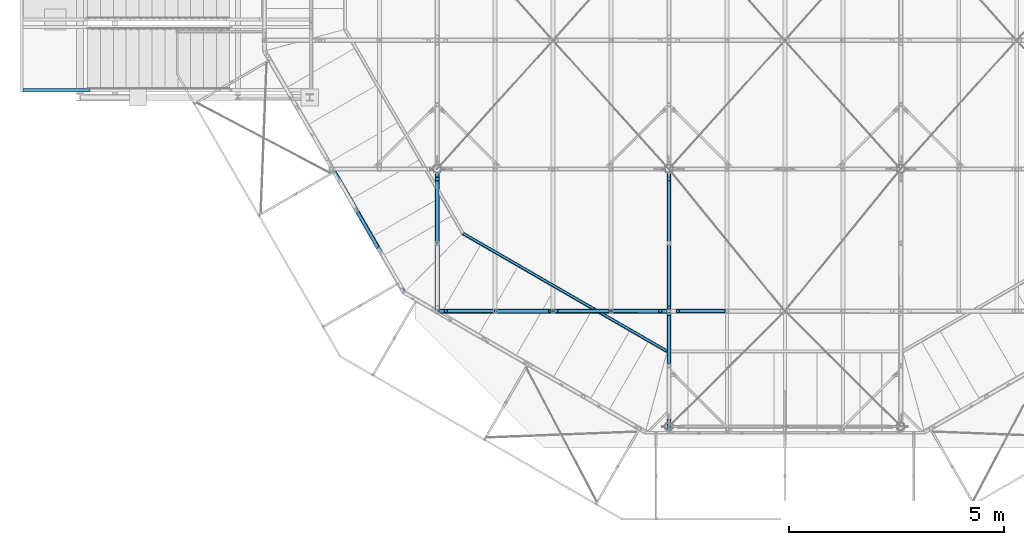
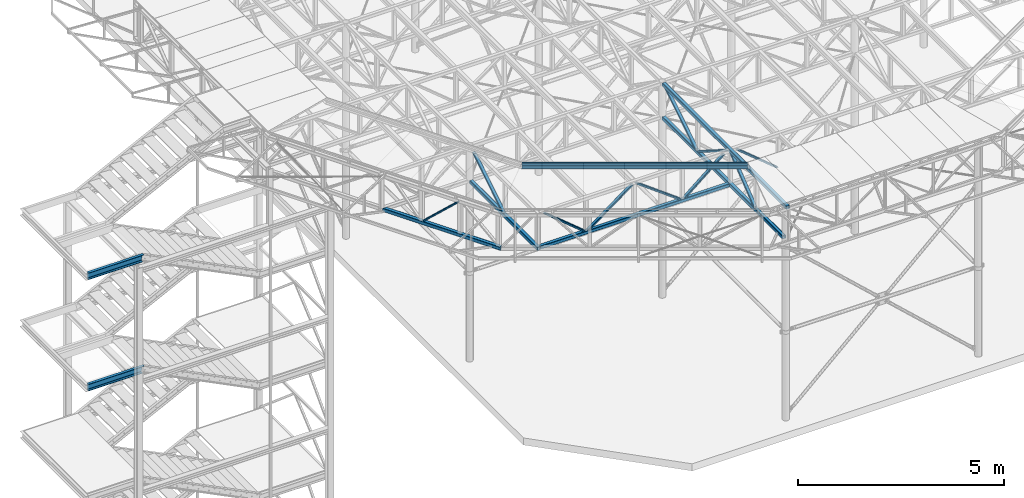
# One storey, part 35 of 132: 19 discrete accessories, 9 elements without a shape of their own.
"""IFC2X3 building model written with IfcOpenShell, lengths in millimetres."""

from ifc_helpers import new_model, si_unit, frame, origin_with_axes, origin_2d_with_axis, place, context, subcontext, project, spatial, rounded_rectangle, hollow_rectangle, circle, l_section, u_section, extrude, boolean, clip, halfspace, material, type_object, element, aggregate, save


model = new_model("IFC2X3")

# Units and contexts
model_context = context("Model", 3, precision=1e-05, world=origin_with_axes())
body_context = subcontext(model_context, "Body", "Model", "MODEL_VIEW")
ifc_project = project(units=[si_unit("LENGTHUNIT", "METRE", prefix="MILLI"), si_unit("AREAUNIT", "SQUARE_METRE"), si_unit("VOLUMEUNIT", "CUBIC_METRE"), si_unit("MASSUNIT", "GRAM", prefix="KILO"), si_unit("TIMEUNIT", "SECOND"), si_unit("PLANEANGLEUNIT", "RADIAN"), si_unit("SOLIDANGLEUNIT", "STERADIAN"), si_unit("THERMODYNAMICTEMPERATUREUNIT", "DEGREE_CELSIUS"), si_unit("LUMINOUSINTENSITYUNIT", "LUMEN")], contexts=[model_context])

# Site, building, storey
site_placement = place(None, origin_with_axes())
site = spatial("IfcSite", under=ifc_project, at=site_placement, Name="Budowa", CompositionType="ELEMENT")
building_placement = place(site_placement, origin_with_axes())
building = spatial("IfcBuilding", under=site, at=building_placement, Name="Undefined", CompositionType="ELEMENT")
storey_placement = place(building_placement, origin_with_axes())
storey = spatial("IfcBuildingStorey", under=building, at=storey_placement, Name="Undefined", CompositionType="ELEMENT", Elevation=0.0)

# Assembly, discrete accessory
assembly_1_placement = place(storey_placement, origin_with_axes())
assembly_1 = element("IfcElementAssembly", 1, at=assembly_1_placement, inside=storey, Name="Steel Assembly", AssemblyPlace="NOTDEFINED", PredefinedType="RIGID_FRAME")
ifc_material = material(Name="STEEL/S235")
discrete_accessory_type_1 = type_object("IfcDiscreteAccessoryType", Name="BEAM")
discrete_accessory_1_placement = place(assembly_1_placement, frame((4632.40452087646, 4498.25460994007, 13965.0), z_axis=(-0.500000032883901, -0.866025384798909, 0.0), x_axis=(0.866025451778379, -0.499999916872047, 0.0)))
discrete_accessory_1 = element("IfcDiscreteAccessory", 2, at=discrete_accessory_1_placement, type_object=discrete_accessory_type_1, material=ifc_material, Name="BEAM", ObjectType="L50*6", context=body_context, shape_type="Clipping", body=[
    clip(clip(extrude(l_section(Depth=50.0, Width=50.0, Thickness=6.0, FilletRadius=7.0, EdgeRadius=3.5, at=origin_2d_with_axis()), frame((5526.2433656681, -1.81898940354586e-12, -9.09494701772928e-13), z_axis=(-1.0, 0.0, 0.0), x_axis=(0.0, -1.0, 0.0)), (0.0, 0.0, 1.0), 5576.68), halfspace(frame((5475.81035694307, -1.81898940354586e-12, -25.0000000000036), z_axis=(-0.965925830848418, 0.0, 0.258819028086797), x_axis=(0.0, 1.0, 0.0)), True)), halfspace(frame((3.51101334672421e-08, 0.0, -24.9999999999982), z_axis=(-0.965925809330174, 0.0, -0.258819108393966), x_axis=(0.0, 1.0, 0.0)), False)),
])
aggregate(assembly_1, [discrete_accessory_1])

assembly_2_placement = place(storey_placement, origin_with_axes())
assembly_2 = element("IfcElementAssembly", 3, at=assembly_2_placement, inside=storey, Name="Steel Assembly", AssemblyPlace="NOTDEFINED", PredefinedType="RIGID_FRAME")
discrete_accessory_2_placement = place(assembly_2_placement, frame((4632.74297509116, 4494.01775168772, 13955.0), z_axis=(0.0, 0.0, 1.0), x_axis=(0.866025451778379, -0.499999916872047, 0.0)))
discrete_accessory_2 = element("IfcDiscreteAccessory", 4, at=discrete_accessory_2_placement, type_object=discrete_accessory_type_1, material=ifc_material, Name="BEAM", ObjectType="L150*75*9", context=body_context, shape_type="Clipping", body=[
    clip(clip(extrude(l_section(Depth=150.0, Width=75.0, Thickness=9.0, FilletRadius=10.5, EdgeRadius=5.5, at=origin_2d_with_axis()), frame((5546.63678901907, -3.07900193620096e-13, 0.0), z_axis=(-1.0, 0.0, 0.0), x_axis=(0.0, -1.0, 0.0)), (0.0, 0.0, 1.0), 5622.29), halfspace(frame((5470.98727593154, 37.5000000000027, 0.0), z_axis=(-0.965925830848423, -0.258819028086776, 0.0), x_axis=(0.0, 0.0, 1.0)), True)), halfspace(frame((1.9117578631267e-08, 37.5000000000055, -1.81898940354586e-12), z_axis=(-0.965925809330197, 0.258819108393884, 0.0), x_axis=(0.0, 0.0, 1.0)), False)),
])
aggregate(assembly_2, [discrete_accessory_2])

# Assembly, discrete accessories
assembly_3_placement = place(storey_placement, origin_with_axes())
assembly_3 = element("IfcElementAssembly", 5, at=assembly_3_placement, inside=storey, Name="Steel Assembly", AssemblyPlace="NOTDEFINED", PredefinedType="RIGID_FRAME")
discrete_accessory_3_placement = place(assembly_3_placement, frame((2677.183368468, 4114.06140515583, 13830.0000000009), z_axis=(-0.866025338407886, -0.500000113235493, 0.0), x_axis=(-0.366880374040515, 0.635455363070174, -0.679408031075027)))
solid_1 = boolean("DIFFERENCE", boolean("DIFFERENCE", extrude(rounded_rectangle(XDim=100.0, YDim=100.0, RoundingRadius=8.0, at=origin_2d_with_axis()), frame((33.9704017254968, 36.6880335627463, 1.12347189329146e-08), z_axis=(0.679408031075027, 0.733760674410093, 2.95361735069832e-10), x_axis=(-0.733760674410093, 0.679408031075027, -3.18989779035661e-10)), (0.0, 0.0, 1.0), 900.0), halfspace(frame((33.9704012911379, 36.6880335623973, 1000.0000000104), z_axis=(0.679408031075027, 0.733760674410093, 2.95361735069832e-10), x_axis=(-0.733760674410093, 0.679408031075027, -3.18989779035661e-10)), True)), halfspace(frame((645.437629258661, 697.072640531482, 1000.00000027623), z_axis=(-0.679408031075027, -0.733760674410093, -2.95362433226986e-10), x_axis=(0.733760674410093, -0.679408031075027, 3.18989805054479e-10)), True))
solid_2 = boolean("DIFFERENCE", boolean("DIFFERENCE", extrude(rounded_rectangle(XDim=100.0, YDim=100.0, RoundingRadius=8.0, at=origin_2d_with_axis()), frame((826.431930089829, -697.072639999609, 3.55705837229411e-07), z_axis=(0.679408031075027, 0.733760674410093, 2.95361735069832e-10), x_axis=(-0.733760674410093, 0.679408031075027, -3.18989779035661e-10)), (0.0, 0.0, 1.0), 900.0), halfspace(frame((826.431929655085, -697.0726399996, 1000.00000035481), z_axis=(0.679408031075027, 0.733760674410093, 2.95361735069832e-10), x_axis=(-0.733760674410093, 0.679408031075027, -3.18989779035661e-10)), True)), halfspace(frame((1437.89915762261, -36.6880330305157, 1000.00000062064), z_axis=(-0.679408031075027, -0.733760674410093, -2.95362433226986e-10), x_axis=(0.733760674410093, -0.679408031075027, 3.18989805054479e-10)), True))
discrete_accessory_3 = element("IfcDiscreteAccessory", 6, at=discrete_accessory_3_placement, type_object=discrete_accessory_type_1, material=ifc_material, Name="BEAM", ObjectType="RHS80*40*4", context=body_context, shape_type="CSG", body=[
    boolean("DIFFERENCE", boolean("DIFFERENCE", boolean("DIFFERENCE", boolean("DIFFERENCE", extrude(hollow_rectangle(XDim=40.0, YDim=80.0, WallThickness=4.0, InnerFilletRadius=4.0, OuterFilletRadius=8.0, at=origin_2d_with_axis()), frame((1455.54966626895, 0.0, -1.67210073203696e-14), z_axis=(-1.0, 0.0, 0.0), x_axis=(0.0, -1.0, 0.0)), (0.0, 0.0, 1.0), 1439.23), solid_1), solid_2), halfspace(frame((1437.89915762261, -36.6880330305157, 1000.00000062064), z_axis=(-0.679408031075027, -0.733760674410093, -2.95362433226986e-10), x_axis=(0.733760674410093, -0.679408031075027, 3.18989805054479e-10)), True)), halfspace(frame((33.9704012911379, 36.6880335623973, 1000.0000000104), z_axis=(0.679408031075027, 0.733760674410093, 2.95361735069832e-10), x_axis=(-0.733760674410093, 0.679408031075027, -3.18989779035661e-10)), True)),
])
discrete_accessory_4_placement = place(assembly_3_placement, frame((3255.58181669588, 3112.2460413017, 12830.0), z_axis=(0.0, 0.0, 1.0), x_axis=(-0.500000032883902, 0.866025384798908, 0.0)))
discrete_accessory_4 = element("IfcDiscreteAccessory", 7, at=discrete_accessory_4_placement, type_object=discrete_accessory_type_1, material=ifc_material, Name="BEAM", ObjectType="SHS100*5", context=body_context, shape_type="Clipping", body=[
    clip(clip(extrude(hollow_rectangle(XDim=100.0, YDim=100.0, WallThickness=5.0, InnerFilletRadius=5.0, OuterFilletRadius=10.0, at=origin_2d_with_axis()), frame((3363.31663048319, 1.86701578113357e-13, 0.0), z_axis=(-1.0, 0.0, 0.0), x_axis=(0.0, -1.0, 0.0)), (0.0, 0.0, 1.0), 3429.57), halfspace(frame((3247.84656727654, -49.9999999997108, -50.0), z_axis=(0.866025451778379, -0.499999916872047, 0.0), x_axis=(0.0, 0.0, 1.0)), False)), halfspace(frame((26.7967793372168, -49.9999999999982, 0.0), z_axis=(0.965921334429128, 0.258835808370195, 0.0), x_axis=(0.0, 0.0, 1.0)), True)),
])
aggregate(assembly_3, [discrete_accessory_3, discrete_accessory_4])

assembly_4_placement = place(storey_placement, origin_with_axes())
assembly_4 = element("IfcElementAssembly", 8, at=assembly_4_placement, inside=storey, Name="Steel Assembly", AssemblyPlace="NOTDEFINED", PredefinedType="RIGID_FRAME")
discrete_accessory_5_placement = place(assembly_4_placement, frame((9283.99999993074, 2690.0000000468, 13830.0), z_axis=(0.0, -1.0, 0.0), x_axis=(-0.770567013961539, 0.0, -0.637358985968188)))
solid_3 = boolean("DIFFERENCE", boolean("DIFFERENCE", extrude(hollow_rectangle(XDim=90.0, YDim=90.0, WallThickness=6.0, InnerFilletRadius=6.0, OuterFilletRadius=12.0, at=origin_2d_with_axis()), frame((1537.1065565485, -38.5283507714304, -6.22094376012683e-10), z_axis=(-0.637358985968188, -0.770567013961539, 0.0), x_axis=(0.770567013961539, -0.637358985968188, 0.0)), (0.0, 0.0, 1.0), 900.0), halfspace(frame((1537.1065565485, -38.5283507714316, 999.999999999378), z_axis=(-0.637358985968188, -0.770567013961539, 0.0), x_axis=(0.770567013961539, -0.637358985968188, 0.0)), True)), halfspace(frame((963.483469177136, -732.038663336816, 999.999999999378), z_axis=(0.637358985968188, 0.770567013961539, 0.0), x_axis=(-0.770567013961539, 0.637358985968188, 0.0)), True))
discrete_accessory_5 = element("IfcDiscreteAccessory", 9, at=discrete_accessory_5_placement, type_object=discrete_accessory_type_1, material=ifc_material, Name="BEAM", ObjectType="RHS90*50*5", context=body_context, shape_type="CSG", body=[
    boolean("DIFFERENCE", boolean("DIFFERENCE", boolean("DIFFERENCE", extrude(hollow_rectangle(XDim=50.0, YDim=90.0, WallThickness=5.0, InnerFilletRadius=7.5, OuterFilletRadius=12.5, at=origin_2d_with_axis()), frame((1533.07734352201, 2.27373675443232e-12, 0.0), z_axis=(-1.0, 0.0, 0.0), x_axis=(0.0, -1.0, 0.0)), (0.0, 0.0, 1.0), 1497.18), solid_3), halfspace(frame((1537.1065565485, -38.5283507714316, 999.999999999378), z_axis=(-0.637358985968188, -0.770567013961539, 0.0), x_axis=(0.770567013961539, -0.637358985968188, 0.0)), True)), halfspace(frame((31.867949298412, 38.52835069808, 1000.0), z_axis=(0.637358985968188, 0.770567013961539, 0.0), x_axis=(-0.770567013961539, 0.637358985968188, 0.0)), True)),
])
discrete_accessory_6_placement = place(assembly_4_placement, frame((4165.99999993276, 2690.0000000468, 13830.0), z_axis=(0.0, -1.0, 0.0), x_axis=(0.770567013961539, 0.0, -0.637358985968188)))
solid_4 = boolean("DIFFERENCE", boolean("DIFFERENCE", extrude(hollow_rectangle(XDim=90.0, YDim=90.0, WallThickness=6.0, InnerFilletRadius=6.0, OuterFilletRadius=12.0, at=origin_2d_with_axis()), frame((1537.1065565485, 38.528350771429, -6.22094376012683e-10), z_axis=(-0.637358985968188, 0.770567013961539, 0.0), x_axis=(-0.770567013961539, -0.637358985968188, 0.0)), (0.0, 0.0, 1.0), 900.0), halfspace(frame((1537.1065565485, 38.5283507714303, 999.999999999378), z_axis=(-0.637358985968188, 0.770567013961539, 0.0), x_axis=(-0.770567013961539, -0.637358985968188, 0.0)), True)), halfspace(frame((963.483469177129, 732.038663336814, 999.999999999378), z_axis=(0.637358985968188, -0.770567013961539, 0.0), x_axis=(0.770567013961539, 0.637358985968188, 0.0)), True))
discrete_accessory_6 = element("IfcDiscreteAccessory", 10, at=discrete_accessory_6_placement, type_object=discrete_accessory_type_1, material=ifc_material, Name="BEAM", ObjectType="RHS90*50*5", context=body_context, shape_type="CSG", body=[
    boolean("DIFFERENCE", boolean("DIFFERENCE", boolean("DIFFERENCE", extrude(hollow_rectangle(XDim=50.0, YDim=90.0, WallThickness=5.0, InnerFilletRadius=7.5, OuterFilletRadius=12.5, at=origin_2d_with_axis()), frame((1533.07734352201, 2.27373675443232e-12, 0.0), z_axis=(-1.0, 0.0, 0.0), x_axis=(0.0, -1.0, 0.0)), (0.0, 0.0, 1.0), 1497.18), solid_4), halfspace(frame((1537.1065565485, 38.5283507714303, 999.999999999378), z_axis=(-0.637358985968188, 0.770567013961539, 0.0), x_axis=(-0.770567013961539, -0.637358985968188, 0.0)), True)), halfspace(frame((31.867949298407, -38.5283506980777, 1000.0), z_axis=(0.637358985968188, -0.770567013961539, 0.0), x_axis=(0.770567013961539, 0.637358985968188, 0.0)), True)),
])
discrete_accessory_7_placement = place(assembly_4_placement, frame((6724.99999993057, 2690.0000000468, 13830.0), z_axis=(0.0, -1.0, 0.0), x_axis=(-0.803557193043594, 0.0, -0.595227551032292)))
solid_5 = boolean("DIFFERENCE", boolean("DIFFERENCE", extrude(hollow_rectangle(XDim=90.0, YDim=90.0, WallThickness=6.0, InnerFilletRadius=6.0, OuterFilletRadius=12.0, at=origin_2d_with_axis()), frame((565.466173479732, 763.379333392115, -6.22094376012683e-10), z_axis=(-0.595227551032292, -0.803557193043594, 0.0), x_axis=(0.803557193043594, -0.595227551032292, 0.0)), (0.0, 0.0, 1.0), 900.0), halfspace(frame((565.46617347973, 763.379333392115, 999.999999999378), z_axis=(-0.595227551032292, -0.803557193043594, 0.0), x_axis=(0.803557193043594, -0.595227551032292, 0.0)), True)), halfspace(frame((29.7613775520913, 40.1778596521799, 1000.0), z_axis=(0.595227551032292, 0.803557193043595, 0.0), x_axis=(-0.803557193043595, 0.595227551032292, 0.0)), True))
solid_6 = boolean("DIFFERENCE", boolean("DIFFERENCE", extrude(hollow_rectangle(XDim=90.0, YDim=90.0, WallThickness=6.0, InnerFilletRadius=6.0, OuterFilletRadius=12.0, at=origin_2d_with_axis()), frame((1650.26838408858, -40.1778605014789, -6.22094376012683e-10), z_axis=(-0.595227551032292, -0.803557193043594, 0.0), x_axis=(0.803557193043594, -0.595227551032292, 0.0)), (0.0, 0.0, 1.0), 900.0), halfspace(frame((1650.2683829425, -40.1778596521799, 1000.0), z_axis=(-0.595227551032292, -0.803557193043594, 0.0), x_axis=(0.803557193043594, -0.595227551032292, 0.0)), True)), halfspace(frame((1114.56358815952, -763.379334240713, 999.999999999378), z_axis=(0.595227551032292, 0.803557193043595, 0.0), x_axis=(-0.803557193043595, 0.595227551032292, 0.0)), True))
discrete_accessory_7 = element("IfcDiscreteAccessory", 11, at=discrete_accessory_7_placement, type_object=discrete_accessory_type_1, material=ifc_material, Name="BEAM", ObjectType="RHS90*50*5", context=body_context, shape_type="CSG", body=[
    boolean("DIFFERENCE", boolean("DIFFERENCE", boolean("DIFFERENCE", boolean("DIFFERENCE", extrude(hollow_rectangle(XDim=50.0, YDim=90.0, WallThickness=5.0, InnerFilletRadius=7.5, OuterFilletRadius=12.5, at=origin_2d_with_axis()), frame((1632.54994793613, 0.0, 0.0), z_axis=(-1.0, 0.0, 0.0), x_axis=(0.0, -1.0, 0.0)), (0.0, 0.0, 1.0), 1585.07), solid_5), solid_6), halfspace(frame((1650.2683829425, -40.1778596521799, 1000.0), z_axis=(-0.595227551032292, -0.803557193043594, 0.0), x_axis=(0.803557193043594, -0.595227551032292, 0.0)), True)), halfspace(frame((29.7613775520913, 40.1778596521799, 1000.0), z_axis=(0.595227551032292, 0.803557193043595, 0.0), x_axis=(-0.803557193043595, 0.595227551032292, 0.0)), True)),
])
discrete_accessory_8_placement = place(assembly_4_placement, frame((6724.99999993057, 2690.0000000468, 13830.0), z_axis=(0.0, -1.0, 0.0), x_axis=(0.803557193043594, 0.0, -0.595227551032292)))
solid_7 = boolean("DIFFERENCE", boolean("DIFFERENCE", extrude(hollow_rectangle(XDim=90.0, YDim=90.0, WallThickness=6.0, InnerFilletRadius=6.0, OuterFilletRadius=12.0, at=origin_2d_with_axis()), frame((1650.26838408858, 40.1778605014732, -6.22094376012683e-10), z_axis=(-0.595227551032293, 0.803557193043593, 0.0), x_axis=(-0.803557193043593, -0.595227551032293, 0.0)), (0.0, 0.0, 1.0), 900.0), halfspace(frame((1650.2683829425, 40.1778596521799, 1000.0), z_axis=(-0.595227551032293, 0.803557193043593, 0.0), x_axis=(-0.803557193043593, -0.595227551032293, 0.0)), True)), halfspace(frame((1114.56358815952, 763.379334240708, 999.999999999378), z_axis=(0.595227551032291, -0.803557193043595, 0.0), x_axis=(0.803557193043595, 0.595227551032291, 0.0)), True))
solid_8 = boolean("DIFFERENCE", boolean("DIFFERENCE", extrude(hollow_rectangle(XDim=90.0, YDim=90.0, WallThickness=6.0, InnerFilletRadius=6.0, OuterFilletRadius=12.0, at=origin_2d_with_axis()), frame((565.46617347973, -763.379333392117, -6.22094376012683e-10), z_axis=(-0.595227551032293, 0.803557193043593, 0.0), x_axis=(-0.803557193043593, -0.595227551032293, 0.0)), (0.0, 0.0, 1.0), 900.0), halfspace(frame((565.46617347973, -763.37933339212, 999.999999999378), z_axis=(-0.595227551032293, 0.803557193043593, 0.0), x_axis=(-0.803557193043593, -0.595227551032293, 0.0)), True)), halfspace(frame((29.7613775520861, -40.1778596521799, 1000.0), z_axis=(0.595227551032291, -0.803557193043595, 0.0), x_axis=(0.803557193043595, 0.595227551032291, 0.0)), True))
discrete_accessory_8 = element("IfcDiscreteAccessory", 12, at=discrete_accessory_8_placement, type_object=discrete_accessory_type_1, material=ifc_material, Name="BEAM", ObjectType="RHS90*50*5", context=body_context, shape_type="CSG", body=[
    boolean("DIFFERENCE", boolean("DIFFERENCE", boolean("DIFFERENCE", boolean("DIFFERENCE", extrude(hollow_rectangle(XDim=50.0, YDim=90.0, WallThickness=5.0, InnerFilletRadius=7.5, OuterFilletRadius=12.5, at=origin_2d_with_axis()), frame((1632.54994793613, 0.0, 0.0), z_axis=(-1.0, 0.0, 0.0), x_axis=(0.0, -1.0, 0.0)), (0.0, 0.0, 1.0), 1585.07), solid_7), solid_8), halfspace(frame((1650.2683829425, 40.1778596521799, 1000.0), z_axis=(-0.595227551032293, 0.803557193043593, 0.0), x_axis=(-0.803557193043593, -0.595227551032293, 0.0)), True)), halfspace(frame((29.7613775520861, -40.1778596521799, 1000.0), z_axis=(0.595227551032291, -0.803557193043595, 0.0), x_axis=(0.803557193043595, 0.595227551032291, 0.0)), True)),
])
discrete_accessory_9_placement = place(assembly_4_placement, frame((4074.99999993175, 2690.00000004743, 12830.0), z_axis=(0.0, -1.0, 0.0), x_axis=(1.0, 0.0, 0.0)))
discrete_accessory_9 = element("IfcDiscreteAccessory", 13, at=discrete_accessory_9_placement, type_object=discrete_accessory_type_1, material=ifc_material, Name="BEAM", ObjectType="SHS100*8", context=body_context, shape_type="SweptSolid", body=[
    extrude(hollow_rectangle(XDim=100.0, YDim=100.0, WallThickness=8.0, InnerFilletRadius=8.0, OuterFilletRadius=16.0, at=origin_2d_with_axis()), frame((5300.0, 0.0, 0.0), z_axis=(-1.0, 0.0, 0.0), x_axis=(0.0, -1.0, 0.0)), (0.0, 0.0, 1.0), 5300.0),
])
aggregate(assembly_4, [discrete_accessory_5, discrete_accessory_6, discrete_accessory_7, discrete_accessory_8, discrete_accessory_9])

assembly_5_placement = place(storey_placement, origin_with_axes())
assembly_5 = element("IfcElementAssembly", 14, at=assembly_5_placement, inside=storey, Name="Steel Assembly", AssemblyPlace="NOTDEFINED", PredefinedType="RIGID_FRAME")
discrete_accessory_10_placement = place(assembly_5_placement, frame((4024.99999991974, 5851.20000004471, 13830.0), z_axis=(1.0, 0.0, 0.0), x_axis=(0.0, -0.845757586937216, -0.533567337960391)))
solid_9 = boolean("DIFFERENCE", boolean("DIFFERENCE", extrude(hollow_rectangle(XDim=90.0, YDim=90.0, WallThickness=6.0, InnerFilletRadius=6.0, OuterFilletRadius=12.0, at=origin_2d_with_axis()), frame((1843.27053417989, -39.620043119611, 1.45519152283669e-11), z_axis=(-0.533567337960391, -0.845757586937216, 0.0), x_axis=(0.845757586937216, -0.533567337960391, 0.0)), (0.0, 0.0, 1.0), 900.0), halfspace(frame((1843.27053417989, -39.6200431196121, 1000.00000000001), z_axis=(-0.533567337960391, -0.845757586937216, 0.0), x_axis=(0.845757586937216, -0.533567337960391, 0.0)), True)), halfspace(frame((1363.05993001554, -800.801871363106, 1000.00000000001), z_axis=(0.533567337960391, 0.845757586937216, 0.0), x_axis=(-0.845757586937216, 0.533567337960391, 0.0)), True))
discrete_accessory_10 = element("IfcDiscreteAccessory", 15, at=discrete_accessory_10_placement, type_object=discrete_accessory_type_1, material=ifc_material, Name="BEAM", ObjectType="RHS90*50*5", context=body_context, shape_type="CSG", body=[
    boolean("DIFFERENCE", boolean("DIFFERENCE", boolean("DIFFERENCE", extrude(hollow_rectangle(XDim=50.0, YDim=90.0, WallThickness=5.0, InnerFilletRadius=7.5, OuterFilletRadius=12.5, at=origin_2d_with_axis()), frame((1845.48264413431, -3.53553394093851e-12, 0.0), z_axis=(-1.0, 0.0, 0.0), x_axis=(0.0, -1.0, 0.0)), (0.0, 0.0, 1.0), 1816.79), solid_9), halfspace(frame((1847.49932138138, -42.2878793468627, 1000.0), z_axis=(-0.533567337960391, -0.845757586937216, 0.0), x_axis=(0.845757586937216, -0.533567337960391, 0.0)), True)), halfspace(frame((26.6783668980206, 42.2878793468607, 1000.0), z_axis=(0.533567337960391, 0.845757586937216, 0.0), x_axis=(-0.845757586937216, 0.533567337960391, 0.0)), True)),
])
discrete_accessory_11_placement = place(assembly_5_placement, frame((4024.99999991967, 5911.10000004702, 12830.0), z_axis=(-1.0, 0.0, 0.0), x_axis=(0.0, -1.0, 0.0)))
discrete_accessory_11 = element("IfcDiscreteAccessory", 16, at=discrete_accessory_11_placement, type_object=discrete_accessory_type_1, material=ifc_material, Name="BEAM", ObjectType="SHS100*8", context=body_context, shape_type="CSG", body=[
    boolean("DIFFERENCE", boolean("DIFFERENCE", extrude(hollow_rectangle(XDim=100.0, YDim=100.0, WallThickness=8.0, InnerFilletRadius=8.0, OuterFilletRadius=16.0, at=origin_2d_with_axis()), frame((3271.09999999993, 0.0, 0.0), z_axis=(-1.0, 0.0, 0.0), x_axis=(0.0, -1.0, 0.0)), (0.0, 0.0, 1.0), 3360.0), extrude(circle(Radius=89.9, at=origin_2d_with_axis()), frame((-88.9000000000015, 1950.0, -5.45696821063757e-12), z_axis=(0.0, -1.0, 0.0), x_axis=(1.0, 0.0, 0.0)), (0.0, 0.0, 1.0), 2100.0)), halfspace(frame((-88.9000000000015, -5339.0, -5.45696821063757e-12), z_axis=(-1.0, 0.0, 0.0), x_axis=(0.0, 0.0, -1.0)), False)),
])
aggregate(assembly_5, [discrete_accessory_10, discrete_accessory_11])

assembly_6_placement = place(storey_placement, origin_with_axes())
assembly_6 = element("IfcElementAssembly", 17, at=assembly_6_placement, inside=storey, Name="Steel Assembly", AssemblyPlace="NOTDEFINED", PredefinedType="RIGID_FRAME")
discrete_accessory_12_placement = place(assembly_6_placement, frame((9424.99999994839, 5851.96136506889, 13830.0000000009), z_axis=(1.0, 0.0, 0.0), x_axis=(0.0, -0.845133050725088, -0.534556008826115)))
solid_10 = boolean("DIFFERENCE", boolean("DIFFERENCE", extrude(hollow_rectangle(XDim=90.0, YDim=90.0, WallThickness=6.0, InnerFilletRadius=6.0, OuterFilletRadius=12.0, at=origin_2d_with_axis()), frame((1362.85050194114, -802.855744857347, -4.56930138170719e-09), z_axis=(0.534556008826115, 0.845133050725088, 0.0), x_axis=(0.845133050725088, -0.534556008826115, 0.0)), (0.0, 0.0, 1.0), 900.0), halfspace(frame((1362.85050194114, -802.855744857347, -1000.00000000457), z_axis=(0.534556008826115, 0.845133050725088, 0.0), x_axis=(0.845133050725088, -0.534556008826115, 0.0)), True)), halfspace(frame((1843.95090988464, -42.2359992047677, -1000.00000000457), z_axis=(-0.534556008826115, -0.845133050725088, 0.0), x_axis=(-0.845133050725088, 0.534556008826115, 0.0)), True))
discrete_accessory_12 = element("IfcDiscreteAccessory", 18, at=discrete_accessory_12_placement, type_object=discrete_accessory_type_1, material=ifc_material, Name="BEAM", ObjectType="RHS90*50*5", context=body_context, shape_type="CSG", body=[
    boolean("DIFFERENCE", boolean("DIFFERENCE", boolean("DIFFERENCE", extrude(hollow_rectangle(XDim=50.0, YDim=90.0, WallThickness=5.0, InnerFilletRadius=7.5, OuterFilletRadius=12.5, at=origin_2d_with_axis()), frame((1846.12761391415, 0.0, 0.0), z_axis=(-1.0, 0.0, 0.0), x_axis=(0.0, -1.0, 0.0)), (0.0, 0.0, 1.0), 1821.54), solid_10), halfspace(frame((1843.98356280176, -42.2566525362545, 1000.0), z_axis=(-0.534556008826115, -0.845133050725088, 0.0), x_axis=(0.845133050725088, -0.534556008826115, 0.0)), True)), halfspace(frame((26.7278004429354, 42.2566525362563, 1000.0), z_axis=(0.534556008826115, 0.845133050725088, 0.0), x_axis=(-0.845133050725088, 0.534556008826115, 0.0)), True)),
])
discrete_accessory_13_placement = place(assembly_6_placement, frame((9424.99999994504, 2690.00000004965, 13830.0000000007), z_axis=(1.0, 0.0, 0.0), x_axis=(0.0, -0.785673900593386, -0.618640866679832)))
solid_11 = boolean("DIFFERENCE", boolean("DIFFERENCE", extrude(hollow_rectangle(XDim=90.0, YDim=90.0, WallThickness=6.0, InnerFilletRadius=6.0, OuterFilletRadius=12.0, at=origin_2d_with_axis()), frame((30.932043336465, 39.283695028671, -1.21326593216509e-09), z_axis=(0.618640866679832, 0.785673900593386, 0.0), x_axis=(0.785673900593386, -0.618640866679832, 0.0)), (0.0, 0.0, 1.0), 900.0), halfspace(frame((30.9320433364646, 39.283695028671, -1000.00000000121), z_axis=(0.618640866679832, 0.785673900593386, 0.0), x_axis=(0.785673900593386, -0.618640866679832, 0.0)), True)), halfspace(frame((587.708823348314, 746.390205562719, -1000.00000000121), z_axis=(-0.618640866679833, -0.785673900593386, 0.0), x_axis=(-0.785673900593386, 0.618640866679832, 0.0)), True))
solid_12 = boolean("DIFFERENCE", boolean("DIFFERENCE", extrude(hollow_rectangle(XDim=90.0, YDim=90.0, WallThickness=6.0, InnerFilletRadius=6.0, OuterFilletRadius=12.0, at=origin_2d_with_axis()), frame((1028.73789709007, -746.390205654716, -1.21326593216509e-09), z_axis=(0.618640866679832, 0.785673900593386, 0.0), x_axis=(0.785673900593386, -0.618640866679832, 0.0)), (0.0, 0.0, 1.0), 900.0), halfspace(frame((1028.73789709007, -746.390205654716, -1000.00000000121), z_axis=(0.618640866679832, 0.785673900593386, 0.0), x_axis=(0.785673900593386, -0.618640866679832, 0.0)), True)), halfspace(frame((1585.51467710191, -39.2836951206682, -1000.00000000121), z_axis=(-0.618640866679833, -0.785673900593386, 0.0), x_axis=(-0.785673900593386, 0.618640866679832, 0.0)), True))
discrete_accessory_13 = element("IfcDiscreteAccessory", 19, at=discrete_accessory_13_placement, type_object=discrete_accessory_type_1, material=ifc_material, Name="BEAM", ObjectType="RHS90*50*5", context=body_context, shape_type="CSG", body=[
    boolean("DIFFERENCE", boolean("DIFFERENCE", boolean("DIFFERENCE", boolean("DIFFERENCE", extrude(hollow_rectangle(XDim=50.0, YDim=90.0, WallThickness=5.0, InnerFilletRadius=7.5, OuterFilletRadius=12.5, at=origin_2d_with_axis()), frame((1564.98501807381, 8.68741200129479e-14, 0.0), z_axis=(-1.0, 0.0, 0.0), x_axis=(0.0, -1.0, 0.0)), (0.0, 0.0, 1.0), 1513.52), solid_11), solid_12), halfspace(frame((1585.51467698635, -39.2836950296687, 1000.0), z_axis=(-0.618640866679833, -0.785673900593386, 0.0), x_axis=(0.785673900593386, -0.618640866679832, 0.0)), True)), halfspace(frame((30.9320433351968, 39.2836950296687, 1000.0), z_axis=(0.618640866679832, 0.785673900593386, 0.0), x_axis=(-0.785673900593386, 0.618640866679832, 0.0)), True)),
])
discrete_accessory_14_placement = place(assembly_6_placement, frame((9424.99999994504, 2690.00000004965, 13830.0000000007), z_axis=(1.0, 0.0, 0.0), x_axis=(0.0, 0.845133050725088, -0.534556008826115)))
solid_13 = boolean("DIFFERENCE", boolean("DIFFERENCE", extrude(hollow_rectangle(XDim=90.0, YDim=90.0, WallThickness=6.0, InnerFilletRadius=6.0, OuterFilletRadius=12.0, at=origin_2d_with_axis()), frame((26.7278004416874, -42.2566525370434, -4.56930138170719e-09), z_axis=(0.534556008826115, -0.845133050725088, 0.0), x_axis=(-0.845133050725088, -0.534556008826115, 0.0)), (0.0, 0.0, 1.0), 900.0), halfspace(frame((26.7278004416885, -42.2566525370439, -1000.00000000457), z_axis=(0.534556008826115, -0.845133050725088, 0.0), x_axis=(-0.845133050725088, -0.534556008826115, 0.0)), True)), halfspace(frame((507.828208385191, -802.876398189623, -1000.00000000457), z_axis=(-0.534556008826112, 0.84513305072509, 0.0), x_axis=(0.845133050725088, 0.534556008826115, 0.0)), True))
solid_14 = boolean("DIFFERENCE", boolean("DIFFERENCE", extrude(hollow_rectangle(XDim=90.0, YDim=90.0, WallThickness=6.0, InnerFilletRadius=6.0, OuterFilletRadius=12.0, at=origin_2d_with_axis()), frame((1362.88315363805, 802.876397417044, -4.56930138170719e-09), z_axis=(0.534556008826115, -0.845133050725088, 0.0), x_axis=(-0.845133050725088, -0.534556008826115, 0.0)), (0.0, 0.0, 1.0), 900.0), halfspace(frame((1362.88315363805, 802.876397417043, -1000.00000000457), z_axis=(0.534556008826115, -0.845133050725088, 0.0), x_axis=(-0.845133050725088, -0.534556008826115, 0.0)), True)), halfspace(frame((1843.98356158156, 42.2566517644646, -1000.00000000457), z_axis=(-0.534556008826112, 0.84513305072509, 0.0), x_axis=(0.845133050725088, 0.534556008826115, 0.0)), True))
discrete_accessory_14 = element("IfcDiscreteAccessory", 20, at=discrete_accessory_14_placement, type_object=discrete_accessory_type_1, material=ifc_material, Name="BEAM", ObjectType="RHS90*50*5", context=body_context, shape_type="CSG", body=[
    boolean("DIFFERENCE", boolean("DIFFERENCE", boolean("DIFFERENCE", boolean("DIFFERENCE", extrude(hollow_rectangle(XDim=50.0, YDim=90.0, WallThickness=5.0, InnerFilletRadius=7.5, OuterFilletRadius=12.5, at=origin_2d_with_axis()), frame((1835.3048903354, 0.0, 0.0), z_axis=(-1.0, 0.0, 0.0), x_axis=(0.0, -1.0, 0.0)), (0.0, 0.0, 1.0), 1799.9), solid_13), solid_14), halfspace(frame((1843.98356280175, 42.2566525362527, 1000.0), z_axis=(-0.534556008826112, 0.84513305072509, 0.0), x_axis=(-0.845133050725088, -0.534556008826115, 0.0)), True)), halfspace(frame((26.7278004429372, -42.2566525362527, 1000.0), z_axis=(0.534556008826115, -0.845133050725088, 0.0), x_axis=(0.845133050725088, 0.534556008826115, 0.0)), True)),
])
discrete_accessory_15_placement = place(assembly_6_placement, frame((9424.99999994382, 88.9000000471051, 12830.0), z_axis=(1.0, 0.0, 0.0), x_axis=(0.0, 1.0, 0.0)))
discrete_accessory_15 = element("IfcDiscreteAccessory", 21, at=discrete_accessory_15_placement, type_object=discrete_accessory_type_1, material=ifc_material, Name="BEAM", ObjectType="SHS100*8", context=body_context, shape_type="CSG", body=[
    boolean("DIFFERENCE", boolean("DIFFERENCE", boolean("DIFFERENCE", boolean("DIFFERENCE", extrude(hollow_rectangle(XDim=100.0, YDim=100.0, WallThickness=8.0, InnerFilletRadius=8.0, OuterFilletRadius=16.0, at=origin_2d_with_axis()), frame((5911.09999999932, 0.0, 0.0), z_axis=(-1.0, 0.0, 0.0), x_axis=(0.0, -1.0, 0.0)), (0.0, 0.0, 1.0), 6000.0), extrude(circle(Radius=89.9, at=origin_2d_with_axis()), frame((-88.9000000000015, 1950.0, -5.45696821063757e-12), z_axis=(0.0, -1.0, 0.0), x_axis=(-1.0, 0.0, 0.0)), (0.0, 0.0, 1.0), 2100.0)), extrude(circle(Radius=89.9, at=origin_2d_with_axis()), frame((5911.09999999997, 1950.0, 0.0), z_axis=(0.0, -1.0, 0.0), x_axis=(-1.0, 0.0, 0.0)), (0.0, 0.0, 1.0), 2100.0)), halfspace(frame((5911.09999999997, -5339.0, 0.0), z_axis=(-1.0, 0.0, 0.0), x_axis=(0.0, 0.0, -1.0)), True)), halfspace(frame((-88.9000000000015, -5339.0, -5.45696821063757e-12), z_axis=(-1.0, 0.0, 0.0), x_axis=(0.0, 0.0, -1.0)), False)),
])
discrete_accessory_16_placement = place(assembly_6_placement, frame((9424.99999994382, -114.899999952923, 13830.0), z_axis=(1.0, 0.0, 0.0), x_axis=(0.0, 1.0, 0.0)))
discrete_accessory_16 = element("IfcDiscreteAccessory", 22, at=discrete_accessory_16_placement, type_object=discrete_accessory_type_1, material=ifc_material, Name="BEAM", ObjectType="SHS100*8", context=body_context, shape_type="CSG", body=[
    boolean("DIFFERENCE", boolean("DIFFERENCE", extrude(hollow_rectangle(XDim=100.0, YDim=100.0, WallThickness=8.0, InnerFilletRadius=8.0, OuterFilletRadius=16.0, at=origin_2d_with_axis()), frame((6114.89999999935, 0.0, 0.0), z_axis=(-1.0, 0.0, 0.0), x_axis=(0.0, -1.0, 0.0)), (0.0, 0.0, 1.0), 6114.9), extrude(circle(Radius=89.9, at=origin_2d_with_axis()), frame((6114.9, 1950.0, 0.0), z_axis=(0.0, -1.0, 0.0), x_axis=(-1.0, 0.0, 0.0)), (0.0, 0.0, 1.0), 2100.0)), halfspace(frame((6114.9, -6339.0, 0.0), z_axis=(-1.0, 0.0, 0.0), x_axis=(0.0, 0.0, -1.0)), True)),
])
aggregate(assembly_6, [discrete_accessory_12, discrete_accessory_13, discrete_accessory_14, discrete_accessory_15, discrete_accessory_16])

# Assembly, discrete accessory
assembly_7_placement = place(storey_placement, origin_with_axes())
assembly_7 = element("IfcElementAssembly", 23, at=assembly_7_placement, inside=storey, Name="Steel Assembly", AssemblyPlace="NOTDEFINED", PredefinedType="RIGID_FRAME")
discrete_accessory_17_placement = place(assembly_7_placement, frame((9565.99999995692, 2690.00000004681, 13830.0), z_axis=(0.0, -1.0, 0.0), x_axis=(0.770567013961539, 0.0, -0.637358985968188)))
solid_15 = boolean("DIFFERENCE", boolean("DIFFERENCE", extrude(hollow_rectangle(XDim=90.0, YDim=90.0, WallThickness=6.0, InnerFilletRadius=6.0, OuterFilletRadius=12.0, at=origin_2d_with_axis()), frame((1537.1065565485, 38.528350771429, -6.22094376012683e-10), z_axis=(-0.637358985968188, 0.770567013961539, 0.0), x_axis=(-0.770567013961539, -0.637358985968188, 0.0)), (0.0, 0.0, 1.0), 900.0), halfspace(frame((1537.1065565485, 38.5283507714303, 999.999999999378), z_axis=(-0.637358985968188, 0.770567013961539, 0.0), x_axis=(-0.770567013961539, -0.637358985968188, 0.0)), True)), halfspace(frame((963.483469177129, 732.038663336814, 999.999999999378), z_axis=(0.637358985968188, -0.770567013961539, 0.0), x_axis=(0.770567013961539, 0.637358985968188, 0.0)), True))
discrete_accessory_17 = element("IfcDiscreteAccessory", 24, at=discrete_accessory_17_placement, type_object=discrete_accessory_type_1, material=ifc_material, Name="BEAM", ObjectType="RHS90*50*5", context=body_context, shape_type="CSG", body=[
    boolean("DIFFERENCE", boolean("DIFFERENCE", boolean("DIFFERENCE", extrude(hollow_rectangle(XDim=50.0, YDim=90.0, WallThickness=5.0, InnerFilletRadius=7.5, OuterFilletRadius=12.5, at=origin_2d_with_axis()), frame((1533.07734352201, 2.27373675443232e-12, 0.0), z_axis=(-1.0, 0.0, 0.0), x_axis=(0.0, -1.0, 0.0)), (0.0, 0.0, 1.0), 1497.18), solid_15), halfspace(frame((1537.1065565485, 38.5283507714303, 999.999999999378), z_axis=(-0.637358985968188, 0.770567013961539, 0.0), x_axis=(-0.770567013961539, -0.637358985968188, 0.0)), True)), halfspace(frame((31.867949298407, -38.5283506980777, 1000.0), z_axis=(0.637358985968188, -0.770567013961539, 0.0), x_axis=(0.770567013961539, 0.637358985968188, 0.0)), True)),
])
aggregate(assembly_7, [discrete_accessory_17])

assembly_8_placement = place(storey_placement, origin_with_axes())
assembly_8 = element("IfcElementAssembly", 25, at=assembly_8_placement, inside=storey, Name="Steel Assembly", AssemblyPlace="NOTDEFINED", PredefinedType="RIGID_FRAME")
discrete_accessory_type_2 = type_object("IfcDiscreteAccessoryType", Name="BELKA")
discrete_accessory_18_placement = place(assembly_8_placement, frame((-5620.00000008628, 7837.50000004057, 12250.0000000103), z_axis=(0.0, 0.0, 1.0), x_axis=(1.0, 0.0, 0.0)))
discrete_accessory_18 = element("IfcDiscreteAccessory", 26, at=discrete_accessory_18_placement, type_object=discrete_accessory_type_2, material=ifc_material, Name="BELKA", ObjectType="UPN200", context=body_context, shape_type="Clipping", body=[
    clip(extrude(u_section(Depth=200.0, FlangeWidth=75.0, WebThickness=8.5, FlangeThickness=11.5, FilletRadius=11.5, EdgeRadius=6.0, at=origin_2d_with_axis()), frame((1560.23606796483, 0.0, 0.0), z_axis=(-1.0, 0.0, 0.0), x_axis=(0.0, -1.0, 0.0)), (0.0, 0.0, 1.0), 1560.24), halfspace(frame((1559.99999998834, -37.4999999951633, 100.000000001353), z_axis=(-0.97324898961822, 0.0, 0.229752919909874), x_axis=(0.0, -1.0, 0.0)), True)),
])
aggregate(assembly_8, [discrete_accessory_18])

assembly_9_placement = place(storey_placement, origin_with_axes())
assembly_9 = element("IfcElementAssembly", 27, at=assembly_9_placement, inside=storey, Name="Steel Assembly", AssemblyPlace="NOTDEFINED", PredefinedType="RIGID_FRAME")
discrete_accessory_19_placement = place(assembly_9_placement, frame((-5620.00000008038, 7837.50000004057, 8950.00000000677), z_axis=(0.0, 0.0, 1.0), x_axis=(1.0, 0.0, 0.0)))
discrete_accessory_19 = element("IfcDiscreteAccessory", 28, at=discrete_accessory_19_placement, type_object=discrete_accessory_type_2, material=ifc_material, Name="BELKA", ObjectType="UPN200", context=body_context, shape_type="Clipping", body=[
    clip(extrude(u_section(Depth=200.0, FlangeWidth=75.0, WebThickness=8.5, FlangeThickness=11.5, FilletRadius=11.5, EdgeRadius=6.0, at=origin_2d_with_axis()), frame((1560.23606796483, 0.0, 0.0), z_axis=(-1.0, 0.0, 0.0), x_axis=(0.0, -1.0, 0.0)), (0.0, 0.0, 1.0), 1560.24), halfspace(frame((1559.99999998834, -37.4999999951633, 100.000000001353), z_axis=(-0.97324898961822, 0.0, 0.229752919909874), x_axis=(0.0, -1.0, 0.0)), True)),
])
aggregate(assembly_9, [discrete_accessory_19])

save(model, "model.ifc")
